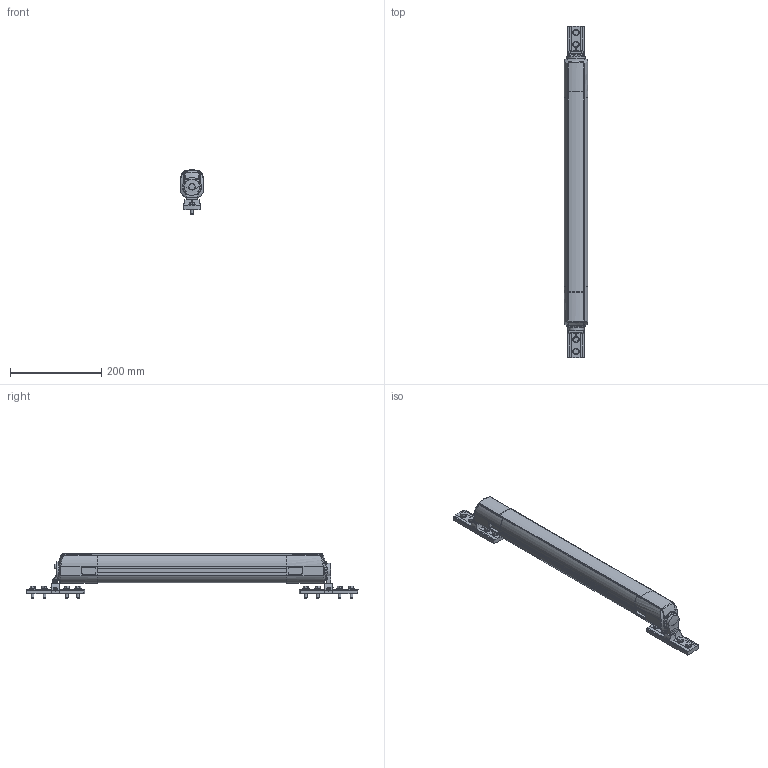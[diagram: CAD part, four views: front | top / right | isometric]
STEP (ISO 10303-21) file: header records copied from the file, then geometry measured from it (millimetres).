
FILE_DESCRIPTION((''),'2;1');
FILE_NAME('M:\INVENTORjob\Konstruktion\LAS 6025\Baugruppe\Vorschlag 4 2_Überarbeitung\STP-Daten Geräte\Transmitter\MLD T2.stp','2011-05-20T11:24:09',('seisen'),(''),'Autodesk Inventor 2009','Autodesk Inventor 2009','');
FILE_SCHEMA(('AUTOMOTIVE_DESIGN { 1 0 10303 214 1 1 1 1 }'));
Length unit declared in the file: millimetre
Products named in the file (9): MLD T2; MLD510 R2; Abdeckung_Kappe_T; Abdeckung_Kappe; NUTENSTEIN-M6; BT-240_C_1; BT-240_C_2; BT-240_B_1; BT-240_B_2
Assembly tree (9 placements, depth 2):
  MLD T2
    MLD510 R2
    Abdeckung_Kappe_T
    Abdeckung_Kappe
    NUTENSTEIN-M6  x2
    BT-240_C_1
    BT-240_C_2
    BT-240_B_1
    BT-240_B_2
Bounding box: 52 x 728.9 x 97.3 mm (x, y, z)
Volume: 1372546.9 mm3; surface area: 282921.3 mm2
Topology: 13 solids, 19 shells, 1216 faces, 3333 edges, 2161 vertices
Faces by surface type: plane 579, cylinder 260, bspline 246, cone 84, torus 28, sphere 19
Full cylindrical faces by diameter (mm): 4.65 x2, 5 x6, 5.3 x10, 5.55 x2, 6 x8, 8.5 x6, 8.6 x6, 13.8 x8, 14 x2, 16.15 x2, 21 x2, 22 x1, 23.4 x1, 31 x2, 32 x1, 33.6 x2, 35.19 x2, 41 x2
Entity records: 47242 total; most frequent: CARTESIAN_POINT 17172, ORIENTED_EDGE 6120, DIRECTION 5570, EDGE_CURVE 3060, VERTEX_POINT 2058, AXIS2_PLACEMENT_3D 1920, VECTOR 1730, LINE 1730
